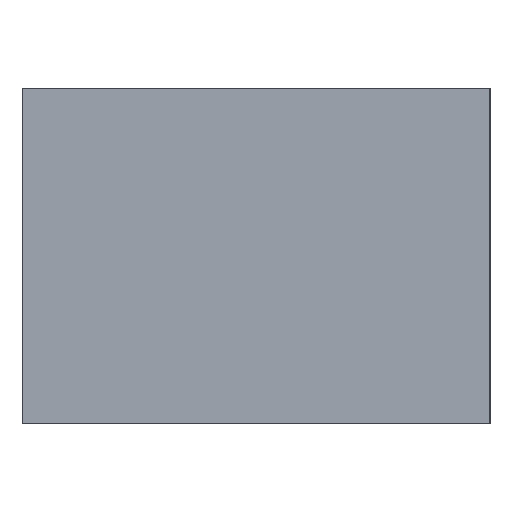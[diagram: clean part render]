
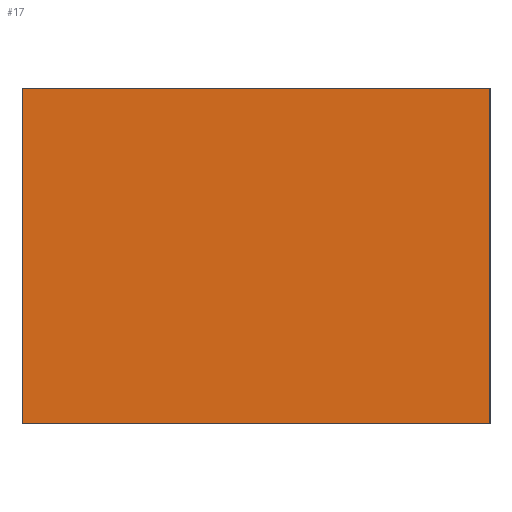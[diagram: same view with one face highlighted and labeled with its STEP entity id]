
A CAD part, left-side view. The second image highlights one B-rep face of the part: STEP entity #17.
In plain terms, the highlighted planar face has unit normal (-1, 0, 0).
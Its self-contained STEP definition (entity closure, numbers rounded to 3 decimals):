
#17 = ADVANCED_FACE('',(#18),#32,.F.);
#18 = FACE_BOUND('',#19,.F.);
#19 = EDGE_LOOP('',(#20,#55,#83,#111));
#20 = ORIENTED_EDGE('',*,*,#21,.F.);
#21 = EDGE_CURVE('',#22,#24,#26,.T.);
#22 = VERTEX_POINT('',#23);
#23 = CARTESIAN_POINT('',(18.,8.,5.));
#24 = VERTEX_POINT('',#25);
#25 = CARTESIAN_POINT('',(18.,8.,8.8));
#26 = SURFACE_CURVE('',#27,(#31,#43),.PCURVE_S1.);
#27 = LINE('',#28,#29);
#28 = CARTESIAN_POINT('',(18.,8.,5.));
#29 = VECTOR('',#30,1.);
#30 = DIRECTION('',(0.,0.,1.));
#31 = PCURVE('',#32,#37);
#32 = PLANE('',#33);
#33 = AXIS2_PLACEMENT_3D('',#34,#35,#36);
#34 = CARTESIAN_POINT('',(18.,8.,5.));
#35 = DIRECTION('',(1.,0.,0.));
#36 = DIRECTION('',(0.,0.,1.));
#37 = DEFINITIONAL_REPRESENTATION('',(#38),#42);
#38 = LINE('',#39,#40);
#39 = CARTESIAN_POINT('',(0.,0.));
#40 = VECTOR('',#41,1.);
#41 = DIRECTION('',(1.,0.));
#42 = ( GEOMETRIC_REPRESENTATION_CONTEXT(2) 
PARAMETRIC_REPRESENTATION_CONTEXT() REPRESENTATION_CONTEXT('2D SPACE',''
  ) );
#43 = PCURVE('',#44,#49);
#44 = PLANE('',#45);
#45 = AXIS2_PLACEMENT_3D('',#46,#47,#48);
#46 = CARTESIAN_POINT('',(18.,8.,5.));
#47 = DIRECTION('',(0.,1.,0.));
#48 = DIRECTION('',(0.,0.,1.));
#49 = DEFINITIONAL_REPRESENTATION('',(#50),#54);
#50 = LINE('',#51,#52);
#51 = CARTESIAN_POINT('',(0.,0.));
#52 = VECTOR('',#53,1.);
#53 = DIRECTION('',(1.,0.));
#54 = ( GEOMETRIC_REPRESENTATION_CONTEXT(2) 
PARAMETRIC_REPRESENTATION_CONTEXT() REPRESENTATION_CONTEXT('2D SPACE',''
  ) );
#55 = ORIENTED_EDGE('',*,*,#56,.T.);
#56 = EDGE_CURVE('',#22,#57,#59,.T.);
#57 = VERTEX_POINT('',#58);
#58 = CARTESIAN_POINT('',(18.,13.3,5.));
#59 = SURFACE_CURVE('',#60,(#64,#71),.PCURVE_S1.);
#60 = LINE('',#61,#62);
#61 = CARTESIAN_POINT('',(18.,8.,5.));
#62 = VECTOR('',#63,1.);
#63 = DIRECTION('',(0.,1.,0.));
#64 = PCURVE('',#32,#65);
#65 = DEFINITIONAL_REPRESENTATION('',(#66),#70);
#66 = LINE('',#67,#68);
#67 = CARTESIAN_POINT('',(0.,0.));
#68 = VECTOR('',#69,1.);
#69 = DIRECTION('',(0.,-1.));
#70 = ( GEOMETRIC_REPRESENTATION_CONTEXT(2) 
PARAMETRIC_REPRESENTATION_CONTEXT() REPRESENTATION_CONTEXT('2D SPACE',''
  ) );
#71 = PCURVE('',#72,#77);
#72 = PLANE('',#73);
#73 = AXIS2_PLACEMENT_3D('',#74,#75,#76);
#74 = CARTESIAN_POINT('',(18.,8.,5.));
#75 = DIRECTION('',(0.,0.,1.));
#76 = DIRECTION('',(1.,0.,0.));
#77 = DEFINITIONAL_REPRESENTATION('',(#78),#82);
#78 = LINE('',#79,#80);
#79 = CARTESIAN_POINT('',(0.,0.));
#80 = VECTOR('',#81,1.);
#81 = DIRECTION('',(0.,1.));
#82 = ( GEOMETRIC_REPRESENTATION_CONTEXT(2) 
PARAMETRIC_REPRESENTATION_CONTEXT() REPRESENTATION_CONTEXT('2D SPACE',''
  ) );
#83 = ORIENTED_EDGE('',*,*,#84,.T.);
#84 = EDGE_CURVE('',#57,#85,#87,.T.);
#85 = VERTEX_POINT('',#86);
#86 = CARTESIAN_POINT('',(18.,13.3,8.8));
#87 = SURFACE_CURVE('',#88,(#92,#99),.PCURVE_S1.);
#88 = LINE('',#89,#90);
#89 = CARTESIAN_POINT('',(18.,13.3,5.));
#90 = VECTOR('',#91,1.);
#91 = DIRECTION('',(0.,0.,1.));
#92 = PCURVE('',#32,#93);
#93 = DEFINITIONAL_REPRESENTATION('',(#94),#98);
#94 = LINE('',#95,#96);
#95 = CARTESIAN_POINT('',(0.,-5.3));
#96 = VECTOR('',#97,1.);
#97 = DIRECTION('',(1.,0.));
#98 = ( GEOMETRIC_REPRESENTATION_CONTEXT(2) 
PARAMETRIC_REPRESENTATION_CONTEXT() REPRESENTATION_CONTEXT('2D SPACE',''
  ) );
#99 = PCURVE('',#100,#105);
#100 = PLANE('',#101);
#101 = AXIS2_PLACEMENT_3D('',#102,#103,#104);
#102 = CARTESIAN_POINT('',(18.,13.3,5.));
#103 = DIRECTION('',(0.,1.,0.));
#104 = DIRECTION('',(0.,0.,1.));
#105 = DEFINITIONAL_REPRESENTATION('',(#106),#110);
#106 = LINE('',#107,#108);
#107 = CARTESIAN_POINT('',(0.,0.));
#108 = VECTOR('',#109,1.);
#109 = DIRECTION('',(1.,0.));
#110 = ( GEOMETRIC_REPRESENTATION_CONTEXT(2) 
PARAMETRIC_REPRESENTATION_CONTEXT() REPRESENTATION_CONTEXT('2D SPACE',''
  ) );
#111 = ORIENTED_EDGE('',*,*,#112,.F.);
#112 = EDGE_CURVE('',#24,#85,#113,.T.);
#113 = SURFACE_CURVE('',#114,(#118,#125),.PCURVE_S1.);
#114 = LINE('',#115,#116);
#115 = CARTESIAN_POINT('',(18.,8.,8.8));
#116 = VECTOR('',#117,1.);
#117 = DIRECTION('',(0.,1.,0.));
#118 = PCURVE('',#32,#119);
#119 = DEFINITIONAL_REPRESENTATION('',(#120),#124);
#120 = LINE('',#121,#122);
#121 = CARTESIAN_POINT('',(3.8,0.));
#122 = VECTOR('',#123,1.);
#123 = DIRECTION('',(0.,-1.));
#124 = ( GEOMETRIC_REPRESENTATION_CONTEXT(2) 
PARAMETRIC_REPRESENTATION_CONTEXT() REPRESENTATION_CONTEXT('2D SPACE',''
  ) );
#125 = PCURVE('',#126,#131);
#126 = PLANE('',#127);
#127 = AXIS2_PLACEMENT_3D('',#128,#129,#130);
#128 = CARTESIAN_POINT('',(18.,8.,8.8));
#129 = DIRECTION('',(0.,0.,1.));
#130 = DIRECTION('',(1.,0.,0.));
#131 = DEFINITIONAL_REPRESENTATION('',(#132),#136);
#132 = LINE('',#133,#134);
#133 = CARTESIAN_POINT('',(0.,0.));
#134 = VECTOR('',#135,1.);
#135 = DIRECTION('',(0.,1.));
#136 = ( GEOMETRIC_REPRESENTATION_CONTEXT(2) 
PARAMETRIC_REPRESENTATION_CONTEXT() REPRESENTATION_CONTEXT('2D SPACE',''
  ) );
